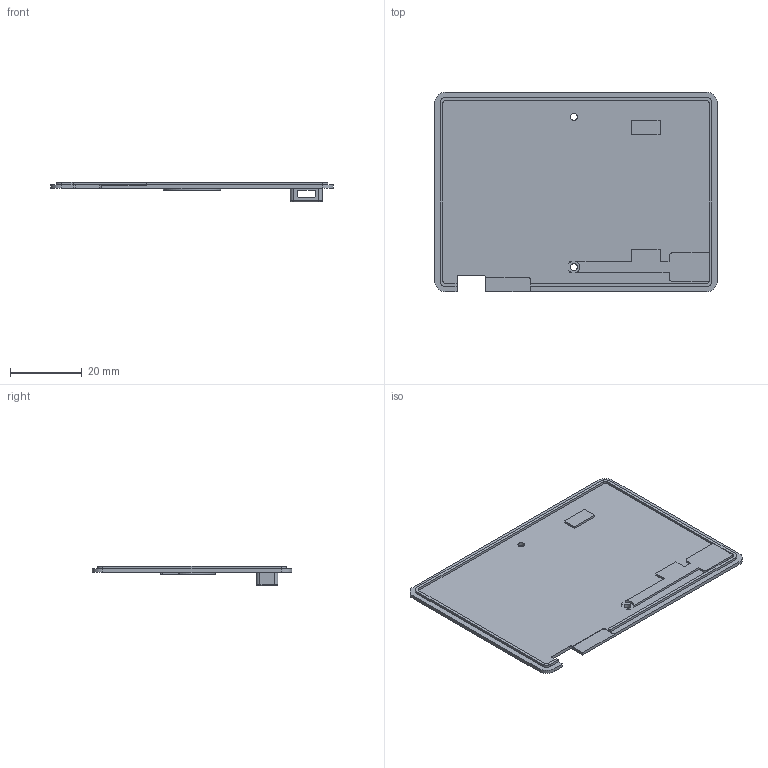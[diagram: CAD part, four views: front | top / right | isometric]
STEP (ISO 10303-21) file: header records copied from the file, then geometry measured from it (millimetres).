
FILE_DESCRIPTION(('Open CASCADE Model'),'2;1');
FILE_NAME('Open CASCADE Shape Model','2026-11-21T19:48:01',('Author'),( 'Open CASCADE'),'Open CASCADE STEP processor 7.9','Open CASCADE 7.9' ,'Unknown');
FILE_SCHEMA(('AUTOMOTIVE_DESIGN { 1 0 10303 214 1 1 1 1 }'));
Length unit declared in the file: millimetre
Products named in the file (1): Open CASCADE STEP translator 7.9 5
Bounding box: 79 x 55.8 x 5.5 mm (x, y, z)
Volume: 4812.5 mm3; surface area: 9648.3 mm2
Topology: 1 solids, 1 shells, 133 faces, 343 edges, 226 vertices
Faces by surface type: plane 74, cylinder 49, extrusion 5, torus 4, cone 1
Full cylindrical faces by diameter (mm): 1.1 x2, 1.4 x2, 1.9 x2, 3 x1
Entity records: 8770 total; most frequent: CARTESIAN_POINT 1791, DIRECTION 1347, VECTOR 803, LINE 798, ORIENTED_EDGE 686, PCURVE 686, DEFINITIONAL_REPRESENTATION 686, EDGE_CURVE 343
